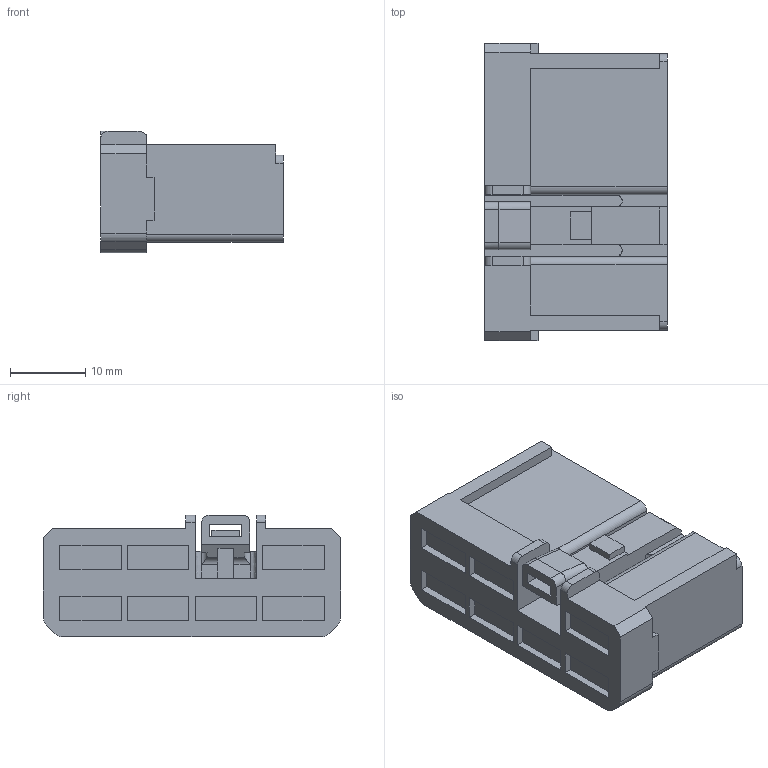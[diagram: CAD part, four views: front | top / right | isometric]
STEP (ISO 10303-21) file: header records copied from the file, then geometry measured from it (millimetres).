
FILE_DESCRIPTION(('CATIA V5 STEP Exchange'),'2;1');
FILE_NAME('N:\C-DAM_MyDesk\ENV\900093\6098-0214.stp','2013-04-04T06:12:31+00:00',('none'),('none'),'CATIA Version 5 Release 20 SP 4 (IN-10)','CATIA V5 STEP AP203','none');
FILE_SCHEMA(('CONFIG_CONTROL_DESIGN'));
Length unit declared in the file: millimetre
Products named in the file (1): 6098-0214
Bounding box: 24.3 x 39.6 x 16.2 mm (x, y, z)
Volume: 10347.3 mm3; surface area: 4607.3 mm2
Topology: 1 solids, 1 shells, 170 faces, 461 edges, 306 vertices
Faces by surface type: plane 146, cylinder 22, bspline 2
Entity records: 5054 total; most frequent: CARTESIAN_POINT 983, ORIENTED_EDGE 922, DIRECTION 665, EDGE_CURVE 461, VECTOR 411, LINE 411, VERTEX_POINT 306, EDGE_LOOP 185
